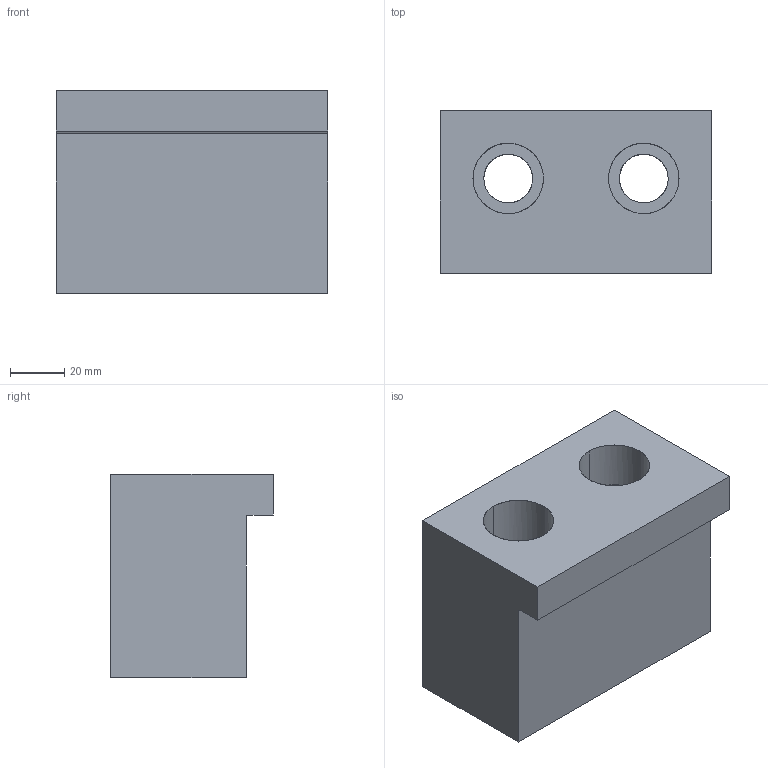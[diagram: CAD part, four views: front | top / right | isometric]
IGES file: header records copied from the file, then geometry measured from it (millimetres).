
Global section: file name: E:\UnigraphicsGraphicData\MISUMI_PRESS-PARTS\IGES\3d_bse100-60_01320_r00.igs; native system: NX V5.0; preprocessor: UGS NX IGES V5.0; author: MISUMI; date: 20110105.160140; units: millimetre
Bounding box: 100 x 60 x 75 mm (x, y, z)
Surface area: 43123.3 mm2 (no closed solid volume)
Topology: 0 solids, 0 shells, 19 faces, 174 edges, 174 vertices
Faces by surface type: bspline 19
